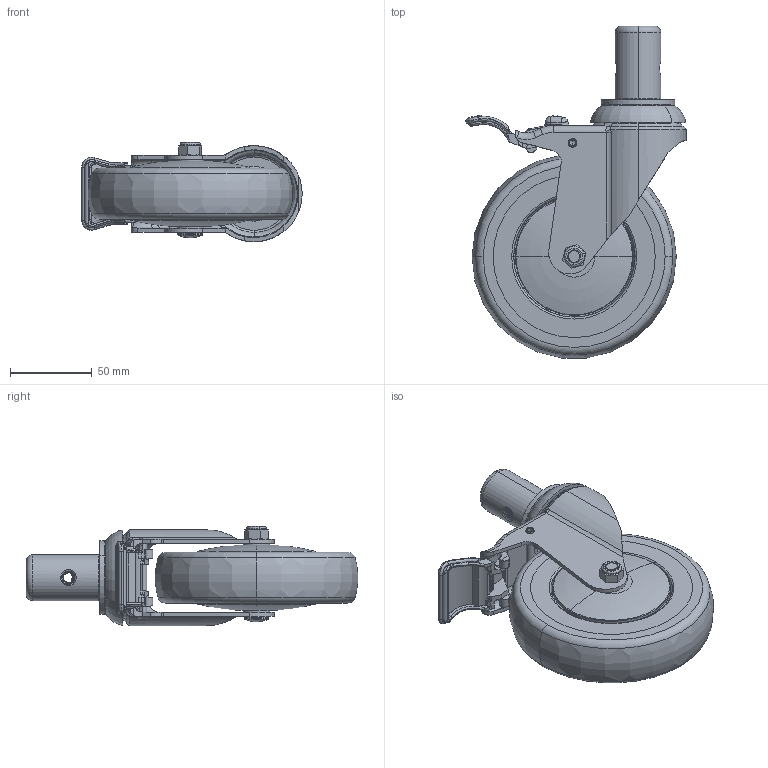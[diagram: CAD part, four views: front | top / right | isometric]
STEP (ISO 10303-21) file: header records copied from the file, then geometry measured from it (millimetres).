
FILE_DESCRIPTION (( 'STEP AP203' ), '1' );
FILE_NAME ('4111605004056-儀器白鐵活煞全效輪.STEP', '2026-04-08T00:44:58', ( '' ), ( '' ), 'SwSTEP 2.0', 'SolidWorks 2019', '' );
FILE_SCHEMA (( 'CONFIG_CONTROL_DESIGN' ));
Length unit declared in the file: metre
Products named in the file (1): 4111605004056-儀器白鐵活煞全效輪
Bounding box: 134.59 x 202.78 x 60.9 mm (x, y, z)
Surface area: 100104.6 mm2 (no closed solid volume)
Topology: 0 solids, 18 shells, 548 faces, 1538 edges, 979 vertices
Faces by surface type: cylinder 179, plane 131, bspline 126, torus 80, sphere 18, cone 14
Entity records: 36426 total; most frequent: CARTESIAN_POINT 23893, ORIENTED_EDGE 2804, DIRECTION 2232, EDGE_CURVE 1529, VERTEX_POINT 979, AXIS2_PLACEMENT_3D 879, EDGE_LOOP 584, ADVANCED_FACE 548
